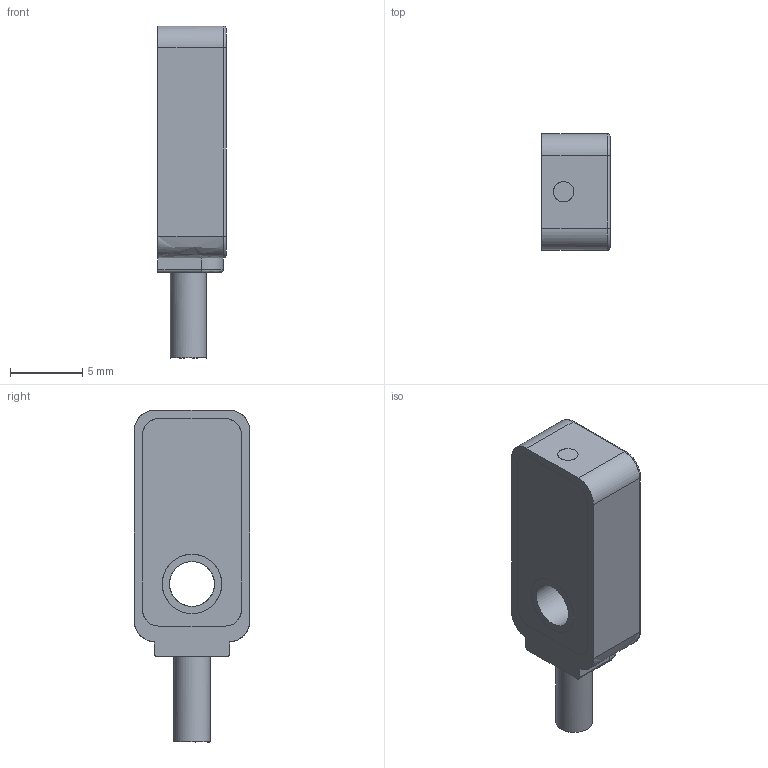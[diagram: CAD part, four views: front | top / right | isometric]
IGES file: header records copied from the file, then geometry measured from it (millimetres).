
Start section: C
Global section: file name: IFFM 08xxx7A6_L.igs; native system:  By UGS Corp.; preprocessor: XPlus GENERIC/IGES 3.0; author: Author; organization: Title; date: 20130418.152008; units: millimetre
Bounding box: 4.7 x 8 x 22.9 mm (x, y, z)
Surface area: 563.2 mm2 (no closed solid volume)
Topology: 0 solids, 0 shells, 52 faces, 262 edges, 262 vertices
Faces by surface type: bspline 52
